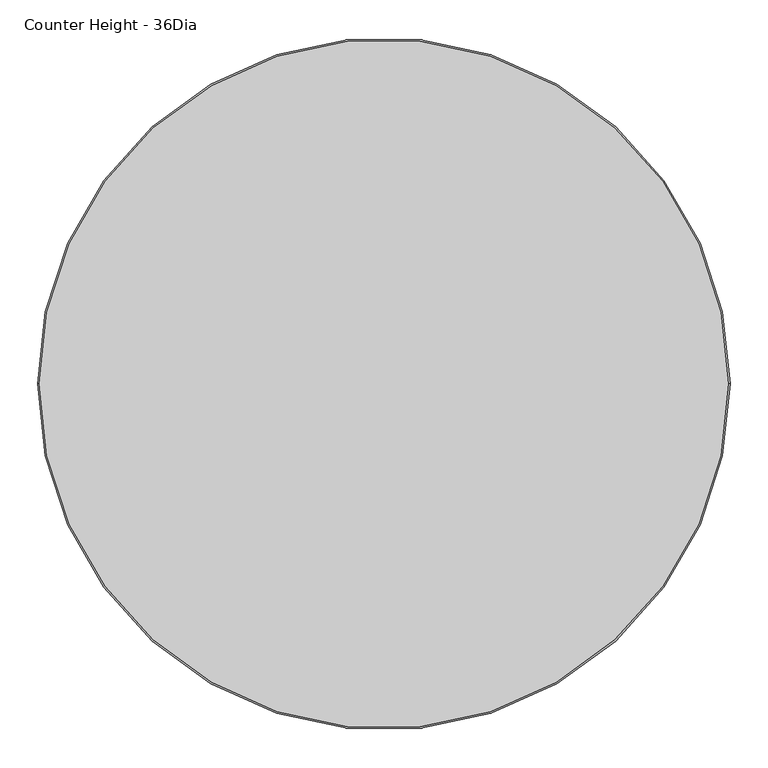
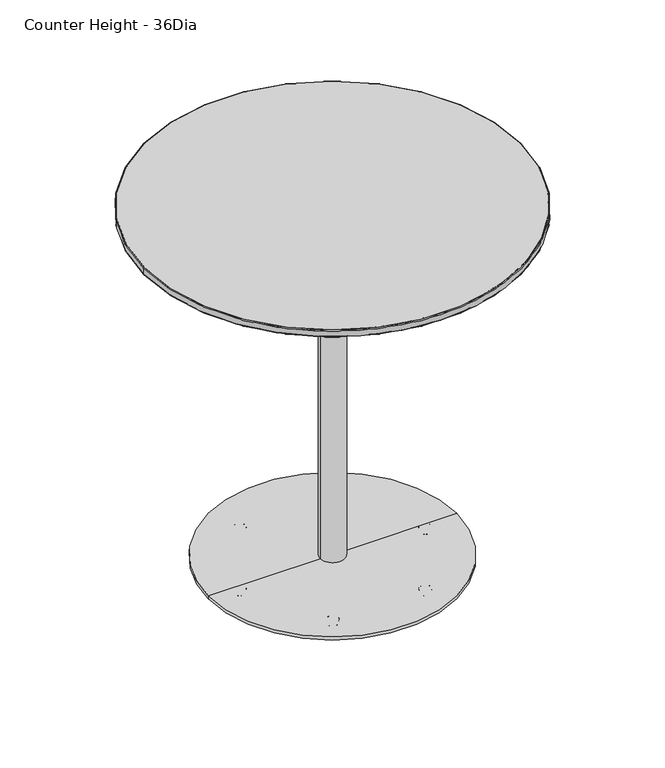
"""IFC4 building model written with IfcOpenShell, lengths in millimetres: furniture geometry, Coalesse_AM_Table_Occasional_Montara650Table_CafeHeight_Round : Counter Height - 36Dia."""

from ifc_helpers import new_model, si_unit, point, frame, origin, origin_with_axes, origin_2d, place, context, project, spatial, polyline, circle_curve, ellipse_curve, trimmed, segment, composite_curve, outline, extrude, source, transform, mapped, element, save
from ifc_brep_helpers import plane_surface, cylinder_surface, revolved_surface, advanced_brep


def counter_height_36dia_bfe26b46(model_context):
    return source(origin(), model_context, "Body", "SolidModel", [
        advanced_brep(
        [(112.3723043, -195.0325848, 0.0), (119.7149467, -202.3752273, 0.0), (105.0296619, -187.6899424, 0.0), (120.2614489, -202.9217294, 0.5718943), (104.4831597, -187.1434403, 0.5718943), (122.560548, -205.2208285, 11.2068005), (102.1840606, -184.8443412, 11.2068005), (122.1455272, -204.8058077, 11.9999882), (102.5990814, -185.259362, 11.9999882), (112.3723043, -195.0325848, 11.9999882)],
        [
            (0, 1),
            (1, 2, circle_curve(frame((112.3723043, -195.0325848, 0.0), z_axis=(0.0, 0.0, -1.0), x_axis=(0.7071067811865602, -0.7071067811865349, 0.0)), 10.3840645)),
            (2, 0),
            (2, 1, circle_curve(frame((112.3723043, -195.0325848, 0.0), z_axis=(0.0, 0.0, -1.0), x_axis=(0.7071067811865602, -0.7071067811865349, 0.0)), 10.3840645)),
            (1, 3, circle_curve(frame((119.7149467, -202.3752273, 0.8081846), z_axis=(-0.7071067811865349, -0.7071067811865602, 0.0), x_axis=(0.7071067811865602, -0.7071067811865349, 0.0)), 0.8081846)),
            (3, 4, circle_curve(frame((112.3723043, -195.0325848, 0.5718943), z_axis=(0.0, 0.0, -1.0), x_axis=(0.7071067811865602, -0.7071067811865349, 0.0)), 11.1569353)),
            (4, 2, circle_curve(frame((105.0296619, -187.6899424, 0.8081846), z_axis=(-0.7071067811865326, -0.7071067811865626, 0.0), x_axis=(-0.7071067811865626, 0.7071067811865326, 0.0)), 0.8081846)),
            (4, 3, circle_curve(frame((112.3723043, -195.0325848, 0.5718943), z_axis=(0.0, 0.0, -1.0), x_axis=(0.7071067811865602, -0.7071067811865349, 0.0)), 11.1569353)),
            (3, 5),
            (5, 6, circle_curve(frame((112.3723043, -195.0325848, 11.2068005), z_axis=(0.0, 0.0, -1.0), x_axis=(0.7071067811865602, -0.7071067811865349, 0.0)), 14.4083524)),
            (6, 4),
            (6, 5, circle_curve(frame((112.3723043, -195.0325848, 11.2068005), z_axis=(0.0, 0.0, -1.0), x_axis=(0.7071067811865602, -0.7071067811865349, 0.0)), 14.4083524)),
            (5, 7, circle_curve(frame((122.1455272, -204.8058077, 11.3862424), z_axis=(-0.7071067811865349, -0.7071067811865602, 0.0), x_axis=(0.7071067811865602, -0.7071067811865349, 0.0)), 0.6137458)),
            (7, 8, circle_curve(frame((112.3723043, -195.0325848, 11.9999882), z_axis=(0.0, 0.0, -1.0), x_axis=(0.7071067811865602, -0.7071067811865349, 0.0)), 13.8214243)),
            (8, 6, circle_curve(frame((102.5990814, -185.259362, 11.3862424), z_axis=(-0.7071067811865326, -0.7071067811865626, 0.0), x_axis=(-0.7071067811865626, 0.7071067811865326, 0.0)), 0.6137458)),
            (8, 7, circle_curve(frame((112.3723043, -195.0325848, 11.9999882), z_axis=(0.0, 0.0, -1.0), x_axis=(0.7071067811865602, -0.7071067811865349, 0.0)), 13.8214243)),
            (7, 9),
            (9, 8),
        ],
        [
            plane_surface(frame((112.3723043, -195.0325848, 0.0), z_axis=(0.0, 0.0, -1.0000000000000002), x_axis=(0.7071067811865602, -0.7071067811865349, 0.0))),
            revolved_surface(trimmed(ellipse_curve(frame((119.7149467, -202.3752273, 0.8081846), z_axis=(0.7071067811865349, 0.7071067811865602, 0.0), x_axis=(0.7071067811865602, -0.7071067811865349, 0.0)), 0.8081846, 0.8081846), [point((120.2614489, -202.9217294, 0.5718943))], [point((119.7149467, -202.3752273, 0.0))], True, "CARTESIAN"), (112.3723043, -195.0325848, 12.2086845), (0.0, 0.0, -1.0)),
            revolved_surface(polyline([(122.560548, -205.2208285, 11.2068005), (120.2614489, -202.9217294, 0.5718943)]), (112.3723043, -195.0325848, 12.2086845), (0.0, 0.0, -1.0)),
            revolved_surface(trimmed(ellipse_curve(frame((122.1455272, -204.8058077, 11.3862424), z_axis=(0.7071067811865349, 0.7071067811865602, 0.0), x_axis=(0.7071067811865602, -0.7071067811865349, 0.0)), 0.6137458, 0.6137458), [point((122.1455272, -204.8058077, 11.9999882))], [point((122.560548, -205.2208285, 11.2068005))], True, "CARTESIAN"), (112.3723043, -195.0325848, 12.2086845), (0.0, 0.0, -1.0)),
            plane_surface(frame((112.3723043, -195.0325848, 11.9999882), z_axis=(0.0, 0.0, 1.0000000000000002), x_axis=(0.7071067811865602, -0.7071067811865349, 0.0))),
        ],
        [
            (0, [[1, 2, 3]]),
            (0, [[-3, 4, -1]]),
            (1, [[-2, 5, 6, 7]]),
            (1, [[-4, -7, 8, -5]]),
            (2, [[-6, 9, 10, 11]]),
            (2, [[-8, -11, 12, -9]]),
            (3, [[-10, 13, 14, 15]]),
            (3, [[-12, -15, 16, -13]]),
            (4, [[-14, 17, 18]]),
            (4, [[-16, -18, -17]]),
        ],
    ),
        advanced_brep(
        [(-104.9597041, -187.5851027, 0.0), (-119.6449889, -202.2703876, 0.0), (-112.3023465, -194.9277451, 0.0), (-104.4132019, -187.0386006, 0.5718943), (-120.1914911, -202.8168897, 0.5718943), (-102.1141028, -184.7395015, 11.2068005), (-122.4905902, -205.1159888, 11.2068005), (-102.5291236, -185.1545223, 11.9999882), (-122.0755694, -204.700968, 11.9999882), (-112.3023465, -194.9277451, 11.9999882)],
        [
            (0, 1, circle_curve(frame((-112.3023465, -194.9277451, 0.0), z_axis=(0.0, 0.0, -1.0), x_axis=(-0.7071067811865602, -0.7071067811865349, 0.0)), 10.3840645)),
            (1, 2),
            (2, 0),
            (1, 0, circle_curve(frame((-112.3023465, -194.9277451, 0.0), z_axis=(0.0, 0.0, -1.0), x_axis=(-0.7071067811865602, -0.7071067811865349, 0.0)), 10.3840645)),
            (3, 4, circle_curve(frame((-112.3023465, -194.9277451, 0.5718943), z_axis=(0.0, 0.0, -1.0), x_axis=(-0.7071067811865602, -0.7071067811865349, 0.0)), 11.1569353)),
            (4, 1, circle_curve(frame((-119.6449889, -202.2703876, 0.8081846), z_axis=(0.7071067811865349, -0.7071067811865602, 0.0), x_axis=(-0.7071067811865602, -0.7071067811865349, 0.0)), 0.8081846)),
            (0, 3, circle_curve(frame((-104.9597041, -187.5851027, 0.8081846), z_axis=(0.7071067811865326, -0.7071067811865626, 0.0), x_axis=(0.7071067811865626, 0.7071067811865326, 0.0)), 0.8081846)),
            (4, 3, circle_curve(frame((-112.3023465, -194.9277451, 0.5718943), z_axis=(0.0, 0.0, -1.0), x_axis=(-0.7071067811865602, -0.7071067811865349, 0.0)), 11.1569353)),
            (5, 6, circle_curve(frame((-112.3023465, -194.9277451, 11.2068005), z_axis=(0.0, 0.0, -1.0), x_axis=(-0.7071067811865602, -0.7071067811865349, 0.0)), 14.4083524)),
            (6, 4),
            (3, 5),
            (6, 5, circle_curve(frame((-112.3023465, -194.9277451, 11.2068005), z_axis=(0.0, 0.0, -1.0), x_axis=(-0.7071067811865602, -0.7071067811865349, 0.0)), 14.4083524)),
            (7, 8, circle_curve(frame((-112.3023465, -194.9277451, 11.9999882), z_axis=(0.0, 0.0, -1.0), x_axis=(-0.7071067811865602, -0.7071067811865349, 0.0)), 13.8214243)),
            (8, 6, circle_curve(frame((-122.0755694, -204.700968, 11.3862424), z_axis=(0.7071067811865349, -0.7071067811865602, 0.0), x_axis=(-0.7071067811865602, -0.7071067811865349, 0.0)), 0.6137458)),
            (5, 7, circle_curve(frame((-102.5291236, -185.1545223, 11.3862424), z_axis=(0.7071067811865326, -0.7071067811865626, 0.0), x_axis=(0.7071067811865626, 0.7071067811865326, 0.0)), 0.6137458)),
            (8, 7, circle_curve(frame((-112.3023465, -194.9277451, 11.9999882), z_axis=(0.0, 0.0, -1.0), x_axis=(-0.7071067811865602, -0.7071067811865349, 0.0)), 13.8214243)),
            (9, 8),
            (7, 9),
        ],
        [
            plane_surface(frame((-112.3023465, -194.9277451, 0.0), z_axis=(0.0, 0.0, -1.0000000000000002), x_axis=(-0.7071067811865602, -0.7071067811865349, 0.0))),
            revolved_surface(trimmed(ellipse_curve(frame((-119.6449889, -202.2703876, 0.8081846), z_axis=(-0.7071067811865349, 0.7071067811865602, 0.0), x_axis=(-0.7071067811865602, -0.7071067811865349, 0.0)), 0.8081846, 0.8081846), [point((-119.6449889, -202.2703876, 0.0))], [point((-120.1914911, -202.8168897, 0.5718943))], True, "CARTESIAN"), (-112.3023465, -194.9277451, 12.2086845), (0.0, 0.0, 1.0)),
            revolved_surface(polyline([(-120.1914911, -202.8168897, 0.5718943), (-122.4905902, -205.1159888, 11.2068005)]), (-112.3023465, -194.9277451, 12.2086845), (0.0, 0.0, 1.0)),
            revolved_surface(trimmed(ellipse_curve(frame((-122.0755694, -204.700968, 11.3862424), z_axis=(-0.7071067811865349, 0.7071067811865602, 0.0), x_axis=(-0.7071067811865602, -0.7071067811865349, 0.0)), 0.6137458, 0.6137458), [point((-122.4905902, -205.1159888, 11.2068005))], [point((-122.0755694, -204.700968, 11.9999882))], True, "CARTESIAN"), (-112.3023465, -194.9277451, 12.2086845), (0.0, 0.0, 1.0)),
            plane_surface(frame((-112.3023465, -194.9277451, 11.9999882), z_axis=(0.0, 0.0, 1.0000000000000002), x_axis=(-0.7071067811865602, -0.7071067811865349, 0.0))),
        ],
        [
            (0, [[1, 2, 3]]),
            (0, [[4, -3, -2]]),
            (1, [[5, 6, -1, 7]]),
            (1, [[8, -7, -4, -6]]),
            (2, [[9, 10, -5, 11]]),
            (2, [[12, -11, -8, -10]]),
            (3, [[13, 14, -9, 15]]),
            (3, [[16, -15, -12, -14]]),
            (4, [[17, -13, 18]]),
            (4, [[-18, -16, -17]]),
        ],
    ),
        advanced_brep(
        [(-112.055175, -184.4898776, 0.0), (-112.055175, -205.2580066, 0.0), (-112.055175, -194.8739421, 0.0), (-112.055175, -183.7170068, 0.5718943), (-112.055175, -206.0308773, 0.5718943), (-112.055175, -180.4655897, 11.2068005), (-112.055175, -209.2822944, 11.2068005), (-112.055175, -181.0525177, 11.9999882), (-112.055175, -208.6953664, 11.9999882), (-112.055175, -194.8739421, 11.9999882)],
        [
            (0, 1, circle_curve(frame((-112.055175, -194.8739421, 0.0), z_axis=(0.0, 0.0, -1.0), x_axis=(0.0, -1.0, 0.0)), 10.3840645)),
            (1, 2),
            (2, 0),
            (1, 0, circle_curve(frame((-112.055175, -194.8739421, 0.0), z_axis=(0.0, 0.0, -1.0), x_axis=(0.0, -1.0, 0.0)), 10.3840645)),
            (3, 4, circle_curve(frame((-112.055175, -194.8739421, 0.5718943), z_axis=(0.0, 0.0, -1.0), x_axis=(0.0, -1.0, 0.0)), 11.1569353)),
            (4, 1, circle_curve(frame((-112.055175, -205.2580066, 0.8081846), z_axis=(1.0, 0.0, 0.0), x_axis=(0.0, -1.0, 0.0)), 0.8081846)),
            (0, 3, circle_curve(frame((-112.055175, -184.4898776, 0.8081846), z_axis=(1.0, 0.0, 0.0), x_axis=(0.0, 1.0, 0.0)), 0.8081846)),
            (4, 3, circle_curve(frame((-112.055175, -194.8739421, 0.5718943), z_axis=(0.0, 0.0, -1.0), x_axis=(0.0, -1.0, 0.0)), 11.1569353)),
            (5, 6, circle_curve(frame((-112.055175, -194.8739421, 11.2068005), z_axis=(0.0, 0.0, -1.0), x_axis=(0.0, -1.0, 0.0)), 14.4083524)),
            (6, 4),
            (3, 5),
            (6, 5, circle_curve(frame((-112.055175, -194.8739421, 11.2068005), z_axis=(0.0, 0.0, -1.0), x_axis=(0.0, -1.0, 0.0)), 14.4083524)),
            (7, 8, circle_curve(frame((-112.055175, -194.8739421, 11.9999882), z_axis=(0.0, 0.0, -1.0), x_axis=(0.0, -1.0, 0.0)), 13.8214243)),
            (8, 6, circle_curve(frame((-112.055175, -208.6953664, 11.3862424), z_axis=(1.0, 0.0, 0.0), x_axis=(0.0, -1.0, 0.0)), 0.6137458)),
            (5, 7, circle_curve(frame((-112.055175, -181.0525177, 11.3862424), z_axis=(1.0, 0.0, 0.0), x_axis=(0.0, 1.0, 0.0)), 0.6137458)),
            (8, 7, circle_curve(frame((-112.055175, -194.8739421, 11.9999882), z_axis=(0.0, 0.0, -1.0), x_axis=(0.0, -1.0, 0.0)), 13.8214243)),
            (9, 8),
            (7, 9),
        ],
        [
            plane_surface(frame((-112.055175, -194.8739421, 0.0), z_axis=(0.0, 0.0, -1.0), x_axis=(0.0, -1.0, 0.0))),
            revolved_surface(trimmed(ellipse_curve(frame((-112.055175, -205.2580066, 0.8081846), z_axis=(-1.0, 0.0, 0.0), x_axis=(0.0, -1.0, 0.0)), 0.8081846, 0.8081846), [point((-112.055175, -205.2580066, 0.0))], [point((-112.055175, -206.0308773, 0.5718943))], True, "CARTESIAN"), (-112.055175, -194.8739421, 12.2086845), (0.0, 0.0, 1.0)),
            revolved_surface(polyline([(-112.055175, -206.0308773, 0.5718943), (-112.055175, -209.2822944, 11.2068005)]), (-112.055175, -194.8739421, 12.2086845), (0.0, 0.0, 1.0)),
            revolved_surface(trimmed(ellipse_curve(frame((-112.055175, -208.6953664, 11.3862424), z_axis=(-1.0, 0.0, 0.0), x_axis=(0.0, -1.0, 0.0)), 0.6137458, 0.6137458), [point((-112.055175, -209.2822944, 11.2068005))], [point((-112.055175, -208.6953664, 11.9999882))], True, "CARTESIAN"), (-112.055175, -194.8739421, 12.2086845), (0.0, 0.0, 1.0)),
            plane_surface(frame((-112.055175, -194.8739421, 11.9999882), z_axis=(0.0, 0.0, 1.0), x_axis=(0.0, -1.0, 0.0))),
        ],
        [
            (0, [[1, 2, 3]]),
            (0, [[4, -3, -2]]),
            (1, [[5, 6, -1, 7]]),
            (1, [[8, -7, -4, -6]]),
            (2, [[9, 10, -5, 11]]),
            (2, [[12, -11, -8, -10]]),
            (3, [[13, 14, -9, 15]]),
            (3, [[16, -15, -12, -14]]),
            (4, [[17, -13, 18]]),
            (4, [[-18, -16, -17]]),
        ],
    ),
        advanced_brep(
        [(214.9060746, 0.0, 0.0), (235.6742036, 0.0, 0.0), (225.2901391, 0.0, 0.0), (214.1332039, 0.0, 0.5718943), (236.4470744, 0.0, 0.5718943), (210.8817867, 0.0, 11.2068005), (239.6984915, 0.0, 11.2068005), (211.4687148, 0.0, 11.9999882), (239.1115635, 0.0, 11.9999882), (225.2901391, 0.0, 11.9999882)],
        [
            (0, 1, circle_curve(frame((225.2901391, 0.0, 0.0), z_axis=(0.0, 0.0, -1.0), x_axis=(1.0, 0.0, 0.0)), 10.3840645)),
            (1, 2),
            (2, 0),
            (1, 0, circle_curve(frame((225.2901391, 0.0, 0.0), z_axis=(0.0, 0.0, -1.0), x_axis=(1.0, 0.0, 0.0)), 10.3840645)),
            (3, 4, circle_curve(frame((225.2901391, 0.0, 0.5718943), z_axis=(0.0, 0.0, -1.0), x_axis=(1.0, 0.0, 0.0)), 11.1569353)),
            (4, 1, circle_curve(frame((235.6742036, 0.0, 0.8081846), z_axis=(0.0, 1.0, 0.0), x_axis=(1.0, 0.0, 0.0)), 0.8081846)),
            (0, 3, circle_curve(frame((214.9060746, 0.0, 0.8081846), z_axis=(0.0, 1.0, 0.0), x_axis=(-1.0, 0.0, 0.0)), 0.8081846)),
            (4, 3, circle_curve(frame((225.2901391, 0.0, 0.5718943), z_axis=(0.0, 0.0, -1.0), x_axis=(1.0, 0.0, 0.0)), 11.1569353)),
            (5, 6, circle_curve(frame((225.2901391, 0.0, 11.2068005), z_axis=(0.0, 0.0, -1.0), x_axis=(1.0, 0.0, 0.0)), 14.4083524)),
            (6, 4),
            (3, 5),
            (6, 5, circle_curve(frame((225.2901391, 0.0, 11.2068005), z_axis=(0.0, 0.0, -1.0), x_axis=(1.0, 0.0, 0.0)), 14.4083524)),
            (7, 8, circle_curve(frame((225.2901391, 0.0, 11.9999882), z_axis=(0.0, 0.0, -1.0), x_axis=(1.0, 0.0, 0.0)), 13.8214243)),
            (8, 6, circle_curve(frame((239.1115635, 0.0, 11.3862424), z_axis=(0.0, 1.0, 0.0), x_axis=(1.0, 0.0, 0.0)), 0.6137458)),
            (5, 7, circle_curve(frame((211.4687148, 0.0, 11.3862424), z_axis=(0.0, 1.0, 0.0), x_axis=(-1.0, 0.0, 0.0)), 0.6137458)),
            (8, 7, circle_curve(frame((225.2901391, 0.0, 11.9999882), z_axis=(0.0, 0.0, -1.0), x_axis=(1.0, 0.0, 0.0)), 13.8214243)),
            (9, 8),
            (7, 9),
        ],
        [
            plane_surface(frame((225.2901391, 0.0, 0.0), z_axis=(0.0, 0.0, -1.0), x_axis=(1.0, 0.0, 0.0))),
            revolved_surface(trimmed(ellipse_curve(frame((235.6742036, 0.0, 0.8081846), z_axis=(0.0, -1.0, 0.0), x_axis=(1.0, 0.0, 0.0)), 0.8081846, 0.8081846), [point((235.6742036, 0.0, 0.0))], [point((236.4470744, 0.0, 0.5718943))], True, "CARTESIAN"), (225.2901391, 0.0, 12.2086845), (0.0, 0.0, 1.0)),
            revolved_surface(polyline([(236.4470744, 0.0, 0.5718943), (239.6984915, 0.0, 11.2068005)]), (225.2901391, 0.0, 12.2086845), (0.0, 0.0, 1.0)),
            revolved_surface(trimmed(ellipse_curve(frame((239.1115635, 0.0, 11.3862424), z_axis=(0.0, -1.0, 0.0), x_axis=(1.0, 0.0, 0.0)), 0.6137458, 0.6137458), [point((239.6984915, 0.0, 11.2068005))], [point((239.1115635, 0.0, 11.9999882))], True, "CARTESIAN"), (225.2901391, 0.0, 12.2086845), (0.0, 0.0, 1.0)),
            plane_surface(frame((225.2901391, 0.0, 11.9999882), z_axis=(0.0, 0.0, 1.0), x_axis=(1.0, 0.0, 0.0))),
        ],
        [
            (0, [[1, 2, 3]]),
            (0, [[4, -3, -2]]),
            (1, [[5, 6, -1, 7]]),
            (1, [[8, -7, -4, -6]]),
            (2, [[9, 10, -5, 11]]),
            (2, [[12, -11, -8, -10]]),
            (3, [[13, 14, -9, 15]]),
            (3, [[16, -15, -12, -14]]),
            (4, [[17, -13, 18]]),
            (4, [[-18, -16, -17]]),
        ],
    ),
        advanced_brep(
        [(102.9986415, 175.7657839, 0.0), (117.6839264, 190.4510688, 0.0), (110.341284, 183.1084263, 0.0), (102.4521394, 175.2192818, 0.5718943), (118.2304285, 190.9975709, 0.5718943), (100.1530403, 172.9201827, 11.2068005), (120.5295276, 193.29667, 11.2068005), (100.5680611, 173.3352035, 11.9999882), (120.1145068, 192.8816492, 11.9999882), (110.341284, 183.1084263, 11.9999882)],
        [
            (0, 1, circle_curve(frame((110.341284, 183.1084263, 0.0), z_axis=(0.0, 0.0, -1.0), x_axis=(0.7071067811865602, 0.7071067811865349, 0.0)), 10.3840645)),
            (1, 2),
            (2, 0),
            (1, 0, circle_curve(frame((110.341284, 183.1084263, 0.0), z_axis=(0.0, 0.0, -1.0), x_axis=(0.7071067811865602, 0.7071067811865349, 0.0)), 10.3840645)),
            (3, 4, circle_curve(frame((110.341284, 183.1084263, 0.5718943), z_axis=(0.0, 0.0, -1.0), x_axis=(0.7071067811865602, 0.7071067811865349, 0.0)), 11.1569353)),
            (4, 1, circle_curve(frame((117.6839264, 190.4510688, 0.8081846), z_axis=(-0.7071067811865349, 0.7071067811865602, 0.0), x_axis=(0.7071067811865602, 0.7071067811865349, 0.0)), 0.8081846)),
            (0, 3, circle_curve(frame((102.9986415, 175.7657839, 0.8081846), z_axis=(-0.7071067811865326, 0.7071067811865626, 0.0), x_axis=(-0.7071067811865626, -0.7071067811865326, 0.0)), 0.8081846)),
            (4, 3, circle_curve(frame((110.341284, 183.1084263, 0.5718943), z_axis=(0.0, 0.0, -1.0), x_axis=(0.7071067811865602, 0.7071067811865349, 0.0)), 11.1569353)),
            (5, 6, circle_curve(frame((110.341284, 183.1084263, 11.2068005), z_axis=(0.0, 0.0, -1.0), x_axis=(0.7071067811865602, 0.7071067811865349, 0.0)), 14.4083524)),
            (6, 4),
            (3, 5),
            (6, 5, circle_curve(frame((110.341284, 183.1084263, 11.2068005), z_axis=(0.0, 0.0, -1.0), x_axis=(0.7071067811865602, 0.7071067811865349, 0.0)), 14.4083524)),
            (7, 8, circle_curve(frame((110.341284, 183.1084263, 11.9999882), z_axis=(0.0, 0.0, -1.0), x_axis=(0.7071067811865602, 0.7071067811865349, 0.0)), 13.8214243)),
            (8, 6, circle_curve(frame((120.1145068, 192.8816492, 11.3862424), z_axis=(-0.7071067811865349, 0.7071067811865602, 0.0), x_axis=(0.7071067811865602, 0.7071067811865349, 0.0)), 0.6137458)),
            (5, 7, circle_curve(frame((100.5680611, 173.3352035, 11.3862424), z_axis=(-0.7071067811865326, 0.7071067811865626, 0.0), x_axis=(-0.7071067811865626, -0.7071067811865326, 0.0)), 0.6137458)),
            (8, 7, circle_curve(frame((110.341284, 183.1084263, 11.9999882), z_axis=(0.0, 0.0, -1.0), x_axis=(0.7071067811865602, 0.7071067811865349, 0.0)), 13.8214243)),
            (9, 8),
            (7, 9),
        ],
        [
            plane_surface(frame((110.341284, 183.1084263, 0.0), z_axis=(0.0, 0.0, -1.0000000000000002), x_axis=(0.7071067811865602, 0.7071067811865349, 0.0))),
            revolved_surface(trimmed(ellipse_curve(frame((117.6839264, 190.4510688, 0.8081846), z_axis=(0.7071067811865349, -0.7071067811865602, 0.0), x_axis=(0.7071067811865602, 0.7071067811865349, 0.0)), 0.8081846, 0.8081846), [point((117.6839264, 190.4510688, 0.0))], [point((118.2304285, 190.9975709, 0.5718943))], True, "CARTESIAN"), (110.341284, 183.1084263, 12.2086845), (0.0, 0.0, 1.0)),
            revolved_surface(polyline([(118.2304285, 190.9975709, 0.5718943), (120.5295276, 193.29667, 11.2068005)]), (110.341284, 183.1084263, 12.2086845), (0.0, 0.0, 1.0)),
            revolved_surface(trimmed(ellipse_curve(frame((120.1145068, 192.8816492, 11.3862424), z_axis=(0.7071067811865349, -0.7071067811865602, 0.0), x_axis=(0.7071067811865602, 0.7071067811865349, 0.0)), 0.6137458, 0.6137458), [point((120.5295276, 193.29667, 11.2068005))], [point((120.1145068, 192.8816492, 11.9999882))], True, "CARTESIAN"), (110.341284, 183.1084263, 12.2086845), (0.0, 0.0, 1.0)),
            plane_surface(frame((110.341284, 183.1084263, 11.9999882), z_axis=(0.0, 0.0, 1.0000000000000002), x_axis=(0.7071067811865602, 0.7071067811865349, 0.0))),
        ],
        [
            (0, [[1, 2, 3]]),
            (0, [[4, -3, -2]]),
            (1, [[5, 6, -1, 7]]),
            (1, [[8, -7, -4, -6]]),
            (2, [[9, 10, -5, 11]]),
            (2, [[12, -11, -8, -10]]),
            (3, [[13, 14, -9, 15]]),
            (3, [[16, -15, -12, -14]]),
            (4, [[17, -13, 18]]),
            (4, [[-18, -16, -17]]),
        ],
    ),
        advanced_brep(
        [(-112.5027991, 194.9473484, 0.0), (-119.8454415, 202.2899909, 0.0), (-105.1601566, 187.604706, 0.0), (-120.3919436, 202.836493, 0.5718943), (-104.6136545, 187.0582039, 0.5718943), (-122.6910427, 205.1355921, 11.2068005), (-102.3145554, 184.7591048, 11.2068005), (-122.2760219, 204.7205713, 11.9999882), (-102.7295762, 185.1741256, 11.9999882), (-112.5027991, 194.9473484, 11.9999882)],
        [
            (0, 1),
            (1, 2, circle_curve(frame((-112.5027991, 194.9473484, 0.0), z_axis=(0.0, 0.0, -1.0), x_axis=(-0.7071067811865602, 0.7071067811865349, 0.0)), 10.3840645)),
            (2, 0),
            (2, 1, circle_curve(frame((-112.5027991, 194.9473484, 0.0), z_axis=(0.0, 0.0, -1.0), x_axis=(-0.7071067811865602, 0.7071067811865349, 0.0)), 10.3840645)),
            (1, 3, circle_curve(frame((-119.8454415, 202.2899909, 0.8081846), z_axis=(0.7071067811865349, 0.7071067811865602, 0.0), x_axis=(-0.7071067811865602, 0.7071067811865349, 0.0)), 0.8081846)),
            (3, 4, circle_curve(frame((-112.5027991, 194.9473484, 0.5718943), z_axis=(0.0, 0.0, -1.0), x_axis=(-0.7071067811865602, 0.7071067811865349, 0.0)), 11.1569353)),
            (4, 2, circle_curve(frame((-105.1601566, 187.604706, 0.8081846), z_axis=(0.7071067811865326, 0.7071067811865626, 0.0), x_axis=(0.7071067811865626, -0.7071067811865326, 0.0)), 0.8081846)),
            (4, 3, circle_curve(frame((-112.5027991, 194.9473484, 0.5718943), z_axis=(0.0, 0.0, -1.0), x_axis=(-0.7071067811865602, 0.7071067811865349, 0.0)), 11.1569353)),
            (3, 5),
            (5, 6, circle_curve(frame((-112.5027991, 194.9473484, 11.2068005), z_axis=(0.0, 0.0, -1.0), x_axis=(-0.7071067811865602, 0.7071067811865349, 0.0)), 14.4083524)),
            (6, 4),
            (6, 5, circle_curve(frame((-112.5027991, 194.9473484, 11.2068005), z_axis=(0.0, 0.0, -1.0), x_axis=(-0.7071067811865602, 0.7071067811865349, 0.0)), 14.4083524)),
            (5, 7, circle_curve(frame((-122.2760219, 204.7205713, 11.3862424), z_axis=(0.7071067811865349, 0.7071067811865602, 0.0), x_axis=(-0.7071067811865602, 0.7071067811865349, 0.0)), 0.6137458)),
            (7, 8, circle_curve(frame((-112.5027991, 194.9473484, 11.9999882), z_axis=(0.0, 0.0, -1.0), x_axis=(-0.7071067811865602, 0.7071067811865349, 0.0)), 13.8214243)),
            (8, 6, circle_curve(frame((-102.7295762, 185.1741256, 11.3862424), z_axis=(0.7071067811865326, 0.7071067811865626, 0.0), x_axis=(0.7071067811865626, -0.7071067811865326, 0.0)), 0.6137458)),
            (8, 7, circle_curve(frame((-112.5027991, 194.9473484, 11.9999882), z_axis=(0.0, 0.0, -1.0), x_axis=(-0.7071067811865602, 0.7071067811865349, 0.0)), 13.8214243)),
            (7, 9),
            (9, 8),
        ],
        [
            plane_surface(frame((-112.5027991, 194.9473484, 0.0), z_axis=(0.0, 0.0, -1.0000000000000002), x_axis=(-0.7071067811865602, 0.7071067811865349, 0.0))),
            revolved_surface(trimmed(ellipse_curve(frame((-119.8454415, 202.2899909, 0.8081846), z_axis=(-0.7071067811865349, -0.7071067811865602, 0.0), x_axis=(-0.7071067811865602, 0.7071067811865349, 0.0)), 0.8081846, 0.8081846), [point((-120.3919436, 202.836493, 0.5718943))], [point((-119.8454415, 202.2899909, 0.0))], True, "CARTESIAN"), (-112.5027991, 194.9473484, 12.2086845), (0.0, 0.0, -1.0)),
            revolved_surface(polyline([(-122.6910427, 205.1355921, 11.2068005), (-120.3919436, 202.836493, 0.5718943)]), (-112.5027991, 194.9473484, 12.2086845), (0.0, 0.0, -1.0)),
            revolved_surface(trimmed(ellipse_curve(frame((-122.2760219, 204.7205713, 11.3862424), z_axis=(-0.7071067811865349, -0.7071067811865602, 0.0), x_axis=(-0.7071067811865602, 0.7071067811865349, 0.0)), 0.6137458, 0.6137458), [point((-122.2760219, 204.7205713, 11.9999882))], [point((-122.6910427, 205.1355921, 11.2068005))], True, "CARTESIAN"), (-112.5027991, 194.9473484, 12.2086845), (0.0, 0.0, -1.0)),
            plane_surface(frame((-112.5027991, 194.9473484, 11.9999882), z_axis=(0.0, 0.0, 1.0000000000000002), x_axis=(-0.7071067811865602, 0.7071067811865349, 0.0))),
        ],
        [
            (0, [[1, 2, 3]]),
            (0, [[-3, 4, -1]]),
            (1, [[-2, 5, 6, 7]]),
            (1, [[-4, -7, 8, -5]]),
            (2, [[-6, 9, 10, 11]]),
            (2, [[-8, -11, 12, -9]]),
            (3, [[-10, 13, 14, 15]]),
            (3, [[-12, -15, 16, -13]]),
            (4, [[-14, 17, 18]]),
            (4, [[-16, -18, -17]]),
        ],
    ),
        advanced_brep(
        [(-225.0355893, 0.0, 0.0), (-235.4196538, 0.0, 0.0), (-214.6515248, 0.0, 0.0), (-236.1925246, 0.0, 0.5718943), (-213.8786541, 0.0, 0.5718943), (-239.4439417, 0.0, 11.2068005), (-210.6272369, 0.0, 11.2068005), (-238.8570136, 0.0, 11.9999882), (-211.214165, 0.0, 11.9999882), (-225.0355893, 0.0, 11.9999882)],
        [
            (0, 1),
            (1, 2, circle_curve(frame((-225.0355893, 0.0, 0.0), z_axis=(0.0, 0.0, -1.0), x_axis=(-1.0, 0.0, 0.0)), 10.3840645)),
            (2, 0),
            (2, 1, circle_curve(frame((-225.0355893, 0.0, 0.0), z_axis=(0.0, 0.0, -1.0), x_axis=(-1.0, 0.0, 0.0)), 10.3840645)),
            (1, 3, circle_curve(frame((-235.4196538, 0.0, 0.8081846), z_axis=(0.0, 1.0, 0.0), x_axis=(-1.0, 0.0, 0.0)), 0.8081846)),
            (3, 4, circle_curve(frame((-225.0355893, 0.0, 0.5718943), z_axis=(0.0, 0.0, -1.0), x_axis=(-1.0, 0.0, 0.0)), 11.1569353)),
            (4, 2, circle_curve(frame((-214.6515248, 0.0, 0.8081846), z_axis=(0.0, 1.0, 0.0), x_axis=(1.0, 0.0, 0.0)), 0.8081846)),
            (4, 3, circle_curve(frame((-225.0355893, 0.0, 0.5718943), z_axis=(0.0, 0.0, -1.0), x_axis=(-1.0, 0.0, 0.0)), 11.1569353)),
            (3, 5),
            (5, 6, circle_curve(frame((-225.0355893, 0.0, 11.2068005), z_axis=(0.0, 0.0, -1.0), x_axis=(-1.0, 0.0, 0.0)), 14.4083524)),
            (6, 4),
            (6, 5, circle_curve(frame((-225.0355893, 0.0, 11.2068005), z_axis=(0.0, 0.0, -1.0), x_axis=(-1.0, 0.0, 0.0)), 14.4083524)),
            (5, 7, circle_curve(frame((-238.8570136, 0.0, 11.3862424), z_axis=(0.0, 1.0, 0.0), x_axis=(-1.0, 0.0, 0.0)), 0.6137458)),
            (7, 8, circle_curve(frame((-225.0355893, 0.0, 11.9999882), z_axis=(0.0, 0.0, -1.0), x_axis=(-1.0, 0.0, 0.0)), 13.8214243)),
            (8, 6, circle_curve(frame((-211.214165, 0.0, 11.3862424), z_axis=(0.0, 1.0, 0.0), x_axis=(1.0, 0.0, 0.0)), 0.6137458)),
            (8, 7, circle_curve(frame((-225.0355893, 0.0, 11.9999882), z_axis=(0.0, 0.0, -1.0), x_axis=(-1.0, 0.0, 0.0)), 13.8214243)),
            (7, 9),
            (9, 8),
        ],
        [
            plane_surface(frame((-225.0355893, 0.0, 0.0), z_axis=(0.0, 0.0, -1.0), x_axis=(-1.0, 0.0, 0.0))),
            revolved_surface(trimmed(ellipse_curve(frame((-235.4196538, 0.0, 0.8081846), z_axis=(0.0, -1.0, 0.0), x_axis=(-1.0, 0.0, 0.0)), 0.8081846, 0.8081846), [point((-236.1925246, 0.0, 0.5718943))], [point((-235.4196538, 0.0, 0.0))], True, "CARTESIAN"), (-225.0355893, 0.0, 12.2086845), (0.0, 0.0, -1.0)),
            revolved_surface(polyline([(-239.4439417, 0.0, 11.2068005), (-236.1925246, 0.0, 0.5718943)]), (-225.0355893, 0.0, 12.2086845), (0.0, 0.0, -1.0)),
            revolved_surface(trimmed(ellipse_curve(frame((-238.8570136, 0.0, 11.3862424), z_axis=(0.0, -1.0, 0.0), x_axis=(-1.0, 0.0, 0.0)), 0.6137458, 0.6137458), [point((-238.8570136, 0.0, 11.9999882))], [point((-239.4439417, 0.0, 11.2068005))], True, "CARTESIAN"), (-225.0355893, 0.0, 12.2086845), (0.0, 0.0, -1.0)),
            plane_surface(frame((-225.0355893, 0.0, 11.9999882), z_axis=(0.0, 0.0, 1.0), x_axis=(-1.0, 0.0, 0.0))),
        ],
        [
            (0, [[1, 2, 3]]),
            (0, [[-3, 4, -1]]),
            (1, [[-2, 5, 6, 7]]),
            (1, [[-4, -7, 8, -5]]),
            (2, [[-6, 9, 10, 11]]),
            (2, [[-8, -11, 12, -9]]),
            (3, [[-10, 13, 14, 15]]),
            (3, [[-12, -15, 16, -13]]),
            (4, [[-14, 17, 18]]),
            (4, [[-16, -18, -17]]),
        ],
    ),
        advanced_brep(
        [(131.5995255, 0.0, 881.255027), (-131.5995255, 0.0, 881.255027), (-176.076473, 0.0, 881.255027), (176.076473, 0.0, 881.255027), (38.8356016, 0.0, 864.6899529), (-38.8356016, 0.0, 864.6899529), (-47.6092868, 0.0, 864.6899529), (47.6092868, 0.0, 864.6899529), (29.5495828, 0.0, 19.9999965), (-29.5495828, 0.0, 19.9999965), (-29.5495828, 0.0, 877.2852036), (29.5495828, 0.0, 877.2852036), (301.0967005, 0.0, 19.9999965), (-301.0967005, 0.0, 19.9999965), (301.0967005, 0.0, 11.9999882), (-301.0967005, 0.0, 11.9999882), (0.0, 0.0, 11.9999882), (176.076473, 0.0, 884.430027), (-176.076473, 0.0, 884.430027), (0.0, 0.0, 884.430027), (32.5573587, 0.0, 866.9383874), (-32.5573587, 0.0, 866.9383874), (30.918584, 0.0, 877.2852036), (-30.918584, 0.0, 877.2852036)],
        [
            (0, 1, circle_curve(frame((0.0, 0.0, 881.255027), z_axis=(0.0, 0.0, 1.0), x_axis=(-1.0, 0.0, 0.0)), 131.5995255)),
            (1, 2),
            (2, 3, circle_curve(frame((0.0, 0.0, 881.255027), z_axis=(0.0, 0.0, -1.0), x_axis=(-1.0, 0.0, 0.0)), 176.076473)),
            (3, 0),
            (1, 0, circle_curve(frame((0.0, 0.0, 881.255027), z_axis=(0.0, 0.0, 1.0), x_axis=(-1.0, 0.0, 0.0)), 131.5995255)),
            (3, 2, circle_curve(frame((0.0, 0.0, 881.255027), z_axis=(0.0, 0.0, -1.0), x_axis=(-1.0, 0.0, 0.0)), 176.076473)),
            (4, 5, circle_curve(frame((0.0, 0.0, 864.6899529), z_axis=(0.0, 0.0, 1.0), x_axis=(-1.0, 0.0, 0.0)), 38.8356016)),
            (5, 6),
            (6, 7, circle_curve(frame((0.0, 0.0, 864.6899529), z_axis=(0.0, 0.0, -1.0), x_axis=(-1.0, 0.0, 0.0)), 47.6092868)),
            (7, 4),
            (5, 4, circle_curve(frame((0.0, 0.0, 864.6899529), z_axis=(0.0, 0.0, 1.0), x_axis=(-1.0, 0.0, 0.0)), 38.8356016)),
            (7, 6, circle_curve(frame((0.0, 0.0, 864.6899529), z_axis=(0.0, 0.0, -1.0), x_axis=(-1.0, 0.0, 0.0)), 47.6092868)),
            (8, 9, circle_curve(frame((0.0, 0.0, 19.9999965), z_axis=(0.0, 0.0, 1.0), x_axis=(-1.0, 0.0, 0.0)), 29.5495828)),
            (9, 10),
            (10, 11, circle_curve(frame((0.0, 0.0, 877.2852036), z_axis=(0.0, 0.0, -1.0), x_axis=(-1.0, 0.0, 0.0)), 29.5495828)),
            (11, 8),
            (9, 8, circle_curve(frame((0.0, 0.0, 19.9999965), z_axis=(0.0, 0.0, 1.0), x_axis=(-1.0, 0.0, 0.0)), 29.5495828)),
            (11, 10, circle_curve(frame((0.0, 0.0, 877.2852036), z_axis=(0.0, 0.0, -1.0), x_axis=(-1.0, 0.0, 0.0)), 29.5495828)),
            (12, 13, circle_curve(frame((0.0, 0.0, 19.9999965), z_axis=(0.0, 0.0, 1.0), x_axis=(-1.0, 0.0, 0.0)), 301.0967005)),
            (13, 9),
            (8, 12),
            (13, 12, circle_curve(frame((0.0, 0.0, 19.9999965), z_axis=(0.0, 0.0, 1.0), x_axis=(-1.0, 0.0, 0.0)), 301.0967005)),
            (14, 15, circle_curve(frame((0.0, 0.0, 11.9999882), z_axis=(0.0, 0.0, 1.0), x_axis=(-1.0, 0.0, 0.0)), 301.0967005)),
            (15, 13),
            (12, 14),
            (15, 14, circle_curve(frame((0.0, 0.0, 11.9999882), z_axis=(0.0, 0.0, 1.0), x_axis=(-1.0, 0.0, 0.0)), 301.0967005)),
            (16, 15),
            (14, 16),
            (17, 18, circle_curve(frame((0.0, 0.0, 884.430027), z_axis=(0.0, 0.0, 1.0), x_axis=(-1.0, 0.0, 0.0)), 176.076473)),
            (18, 19),
            (19, 17),
            (18, 17, circle_curve(frame((0.0, 0.0, 884.430027), z_axis=(0.0, 0.0, 1.0), x_axis=(-1.0, 0.0, 0.0)), 176.076473)),
            (2, 18),
            (17, 3),
            (20, 21, circle_curve(frame((0.0, 0.0, 866.9383874), z_axis=(0.0, 0.0, 1.0), x_axis=(-1.0, 0.0, 0.0)), 32.5573587)),
            (21, 5),
            (4, 20),
            (21, 20, circle_curve(frame((0.0, 0.0, 866.9383874), z_axis=(0.0, 0.0, 1.0), x_axis=(-1.0, 0.0, 0.0)), 32.5573587)),
            (22, 23, circle_curve(frame((0.0, 0.0, 877.2852036), z_axis=(0.0, 0.0, 1.0), x_axis=(-1.0, 0.0, 0.0)), 30.918584)),
            (23, 21),
            (20, 22),
            (23, 22, circle_curve(frame((0.0, 0.0, 877.2852036), z_axis=(0.0, 0.0, 1.0), x_axis=(-1.0, 0.0, 0.0)), 30.918584)),
            (10, 23),
            (22, 11),
            (6, 1),
            (0, 7),
        ],
        [
            plane_surface(frame((0.0, 0.0, 881.255027), z_axis=(0.0, 0.0, -1.0), x_axis=(-1.0, 0.0, 0.0))),
            plane_surface(frame((0.0, 0.0, 864.6899529), z_axis=(0.0, 0.0, -1.0), x_axis=(-1.0, 0.0, 0.0))),
            cylinder_surface(frame((0.0, 0.0, 629.5999965), z_axis=(0.0, 0.0, -1.0), x_axis=(-1.0, 0.0, 0.0)), 29.5495828),
            plane_surface(frame((0.0, 0.0, 19.9999965), z_axis=(0.0, 0.0, 1.0), x_axis=(-1.0, 0.0, 0.0))),
            cylinder_surface(frame((0.0, 0.0, 629.5999965), z_axis=(0.0, 0.0, -1.0), x_axis=(-1.0, 0.0, 0.0)), 301.0967005),
            plane_surface(frame((0.0, 0.0, 11.9999882), z_axis=(0.0, 0.0, -1.0), x_axis=(-1.0, 0.0, 0.0))),
            plane_surface(frame((0.0, 0.0, 884.430027), z_axis=(0.0, 0.0, 1.0), x_axis=(-1.0, 0.0, 0.0))),
            cylinder_surface(frame((0.0, 0.0, 629.5999965), z_axis=(0.0, 0.0, -1.0), x_axis=(-1.0, 0.0, 0.0)), 176.076473),
            revolved_surface(polyline([(-38.8356016, 0.0, 864.6899529), (-32.5573587, 0.0, 866.9383874)]), (0.0, 0.0, 629.5999965), (0.0, 0.0, -1.0)),
            revolved_surface(polyline([(-32.5573587, 0.0, 866.9383874), (-30.918584, 0.0, 877.2852036)]), (0.0, 0.0, 629.5999965), (0.0, 0.0, -1.0)),
            plane_surface(frame((0.0, 0.0, 877.2852036), z_axis=(0.0, 0.0, -1.0), x_axis=(-1.0, 0.0, 0.0))),
            revolved_surface(polyline([(-131.5995255, 0.0, 881.255027), (-47.6092868, 0.0, 864.6899529)]), (0.0, 0.0, 629.5999965), (0.0, 0.0, -1.0)),
        ],
        [
            (0, [[1, 2, 3, 4]]),
            (0, [[5, -4, 6, -2]]),
            (1, [[7, 8, 9, 10]]),
            (1, [[11, -10, 12, -8]]),
            (2, [[13, 14, 15, 16]]),
            (2, [[17, -16, 18, -14]]),
            (3, [[19, 20, -13, 21]]),
            (3, [[22, -21, -17, -20]]),
            (4, [[23, 24, -19, 25]]),
            (4, [[26, -25, -22, -24]]),
            (5, [[27, -23, 28]]),
            (5, [[-28, -26, -27]]),
            (6, [[29, 30, 31]]),
            (6, [[32, -31, -30]]),
            (7, [[-3, 33, -29, 34]]),
            (7, [[-6, -34, -32, -33]]),
            (8, [[35, 36, -7, 37]]),
            (8, [[38, -37, -11, -36]]),
            (9, [[39, 40, -35, 41]]),
            (9, [[42, -41, -38, -40]]),
            (10, [[-15, 43, -39, 44]]),
            (10, [[-18, -44, -42, -43]]),
            (11, [[-9, 45, -1, 46]]),
            (11, [[-12, -46, -5, -45]]),
        ],
    ),
        advanced_brep(
        [(-391.668, 0.0, 884.430027), (391.668, 0.0, 884.430027), (-455.168, 0.0, 896.695891), (455.168, 0.0, 896.695891)],
        [
            (0, 1, circle_curve(frame((0.0, 0.0, 884.430027), z_axis=(0.0, 0.0, -1.0), x_axis=(-1.0, 0.0, 0.0)), 391.668)),
            (1, 0, circle_curve(frame((0.0, 0.0, 884.430027), z_axis=(0.0, 0.0, -1.0), x_axis=(1.0, 0.0, 0.0)), 391.668)),
            (2, 3, circle_curve(frame((0.0, 0.0, 896.695891), z_axis=(0.0, 0.0, 1.0), x_axis=(1.0, 0.0, 0.0)), 455.168)),
            (3, 2, circle_curve(frame((0.0, 0.0, 896.695891), z_axis=(0.0, 0.0, 1.0), x_axis=(-1.0, 0.0, 0.0)), 455.168)),
            (2, 0),
            (1, 3),
        ],
        [
            plane_surface(frame((0.0, 0.0, 884.430027), z_axis=(0.0, 0.0, -1.0), x_axis=(0.0, -1.0, 0.0))),
            plane_surface(frame((0.0, 0.0, 896.695891), z_axis=(0.0, 0.0, 1.0), x_axis=(0.0, -1.0, 0.0))),
            revolved_surface(polyline([(391.6679998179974, 0.0, 884.430027), (455.168, 0.0, 896.695891)]), (0.0, 0.0, 808.7741781), (0.0, 0.0, 1.0)),
            revolved_surface(polyline([(-391.6679998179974, 0.0, 884.430027), (-455.168, 0.0, 896.695891)]), (0.0, 0.0, 808.7741781), (0.0, 0.0, 1.0)),
        ],
        [
            (0, [[1, 2]]),
            (1, [[3, 4]]),
            (2, [[-3, 5, -2, 6]]),
            (3, [[-4, -6, -1, -5]]),
        ],
    ),
        extrude(outline(composite_curve([segment(trimmed(circle_curve(origin_2d(), 455.168), [point((-455.168, 0.0))], [point((455.168, 0.0))], False, "CARTESIAN"), True, "CONTINUOUS"), segment(trimmed(circle_curve(origin_2d(), 455.168), [point((455.168, 0.0))], [point((-455.168, 0.0))], False, "CARTESIAN"), True, "CONTINUOUS")], self_intersect=False)), frame((0.0, 0.0, 896.695891), z_axis=(0.0, 0.0, 1.0), x_axis=(1.0, 0.0, 0.0)), (0.0, 0.0, 1.0), 17.704109),
        advanced_brep(
        [(457.2438665, 0.0, 898.6278467), (-457.2438665, 0.0, 898.6278467), (-455.168, 0.0, 896.695891), (455.168, 0.0, 896.695891), (457.2438665, 0.0, 912.3999283), (-457.2438665, 0.0, 912.3999283), (455.168, 0.0, 914.4), (-455.168, 0.0, 914.4)],
        [
            (0, 1, circle_curve(frame((0.0, 0.0, 898.6278467), z_axis=(0.0, 0.0, -1.0), x_axis=(-1.0, 0.0, 0.0)), 457.2438665)),
            (1, 2, circle_curve(frame((-455.3069224, 0.0, 898.6278467), z_axis=(0.0, -1.0, 0.0), x_axis=(1.0, 0.0, 0.0)), 1.9369441)),
            (2, 3, circle_curve(frame((0.0, 0.0, 896.695891), z_axis=(0.0, 0.0, 1.0), x_axis=(-1.0, 0.0, 0.0)), 455.168)),
            (3, 0, circle_curve(frame((455.3069224, 0.0, 898.6278467), z_axis=(0.0, -1.0, 0.0), x_axis=(-1.0, 0.0, 0.0)), 1.9369441)),
            (4, 5, circle_curve(frame((0.0, 0.0, 912.3999283), z_axis=(0.0, 0.0, -1.0), x_axis=(-1.0, 0.0, 0.0)), 457.2438665)),
            (5, 1),
            (0, 4),
            (6, 7, circle_curve(frame((0.0, 0.0, 914.4), z_axis=(0.0, 0.0, -1.0), x_axis=(-1.0, 0.0, 0.0)), 455.168)),
            (7, 5, circle_curve(frame((-455.2424111, 0.0, 912.3999283), z_axis=(0.0, -1.0, 0.0), x_axis=(1.0, 0.0, 0.0)), 2.0014554)),
            (4, 6, circle_curve(frame((455.2424111, 0.0, 912.3999283), z_axis=(0.0, -1.0, 0.0), x_axis=(-1.0, 0.0, 0.0)), 2.0014554)),
            (2, 7),
            (6, 3),
            (1, 0, circle_curve(frame((0.0, 0.0, 898.6278467), z_axis=(0.0, 0.0, -1.0), x_axis=(1.0, 0.0, 0.0)), 457.2438665)),
            (3, 2, circle_curve(frame((0.0, 0.0, 896.695891), z_axis=(0.0, 0.0, 1.0), x_axis=(1.0, 0.0, 0.0)), 455.168)),
            (5, 4, circle_curve(frame((0.0, 0.0, 912.3999283), z_axis=(0.0, 0.0, -1.0), x_axis=(1.0, 0.0, 0.0)), 457.2438665)),
            (7, 6, circle_curve(frame((0.0, 0.0, 914.4), z_axis=(0.0, 0.0, -1.0), x_axis=(1.0, 0.0, 0.0)), 455.168)),
        ],
        [
            revolved_surface(trimmed(ellipse_curve(frame((-455.3069224, 0.0, 898.6278467), z_axis=(0.0, 1.0, 0.0), x_axis=(1.0, 0.0, 0.0)), 1.9369441, 1.9369441), [point((-455.168, 0.0, 896.695891))], [point((-457.2438665, 0.0, 898.6278467))], True, "CARTESIAN"), (0.0, 0.0, 0.0), (0.0, 0.0, 1.0)),
            cylinder_surface(frame((0.0, 0.0, 0.0), z_axis=(0.0, 0.0, 1.0), x_axis=(-1.0, 0.0, 0.0)), 457.2438665),
            revolved_surface(trimmed(ellipse_curve(frame((-455.2424111, 0.0, 912.3999283), z_axis=(0.0, 1.0, 0.0), x_axis=(1.0, 0.0, 0.0)), 2.0014554, 2.0014554), [point((-457.2438665, 0.0, 912.3999283))], [point((-455.168, 0.0, 914.4))], True, "CARTESIAN"), (0.0, 0.0, 0.0), (0.0, 0.0, 1.0)),
            revolved_surface(polyline([(-455.168, 0.0, 914.4), (-455.168, 0.0, 896.695891)]), (0.0, 0.0, 0.0), (0.0, 0.0, 1.0)),
            revolved_surface(trimmed(ellipse_curve(frame((455.3069224, 0.0, 898.6278467), z_axis=(0.0, -1.0, 0.0), x_axis=(-1.0, 0.0, 0.0)), 1.9369441, 1.9369441), [point((455.168, 0.0, 896.695891))], [point((457.2438665, 0.0, 898.6278467))], True, "CARTESIAN"), (0.0, 0.0, 0.0), (0.0, 0.0, 1.0)),
            cylinder_surface(origin_with_axes(), 457.2438665),
            revolved_surface(trimmed(ellipse_curve(frame((455.2424111, 0.0, 912.3999283), z_axis=(0.0, -1.0, 0.0), x_axis=(-1.0, 0.0, 0.0)), 2.0014554, 2.0014554), [point((457.2438665, 0.0, 912.3999283))], [point((455.168, 0.0, 914.4))], True, "CARTESIAN"), (0.0, 0.0, 0.0), (0.0, 0.0, 1.0)),
            revolved_surface(polyline([(455.168, 0.0, 914.4), (455.168, 0.0, 896.695891)]), (0.0, 0.0, 0.0), (0.0, 0.0, 1.0)),
        ],
        [
            (0, [[1, 2, 3, 4]]),
            (1, [[5, 6, -1, 7]]),
            (2, [[8, 9, -5, 10]]),
            (3, [[-3, 11, -8, 12]]),
            (4, [[13, -4, 14, -2]]),
            (5, [[15, -7, -13, -6]]),
            (6, [[16, -10, -15, -9]]),
            (7, [[-14, -12, -16, -11]]),
        ],
    ),
    ])


if __name__ == "__main__":
    model = new_model("IFC4")
    model_context = context("Model", 3, world=origin())
    ifc_project = project(units=[si_unit("LENGTHUNIT", "METRE", prefix="MILLI")], contexts=[model_context])
    site = spatial("IfcSite", under=ifc_project)
    building = spatial("IfcBuilding", under=site)
    placement = place(None, origin())
    counter_height_36dia_shape = counter_height_36dia_bfe26b46(model_context)
    element("IfcFurniture", 1, ObjectType="Coalesse_AM_Table_Occasional_Montara650Table_CafeHeight_Round : Counter Height - 36Dia", at=placement, inside=building, context=model_context, shape_type="MappedRepresentation", body=[
        mapped(counter_height_36dia_shape, transform((0.0, 0.0, 0.0), x_axis=(1.0, 0.0, 0.0), y_axis=(0.0, 1.0, 0.0), z_axis=(0.0, 0.0, 1.0))),
    ])
    save(model, "model.ifc")
